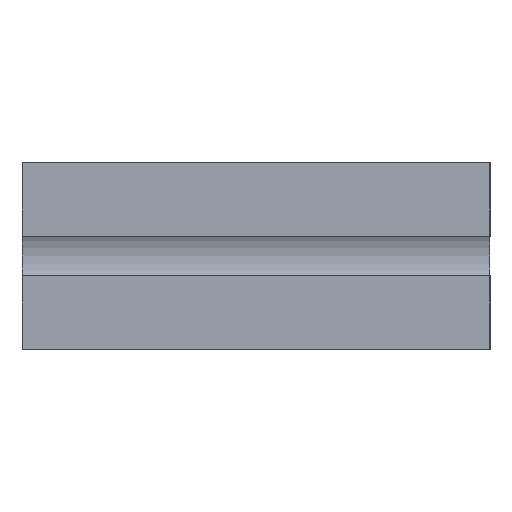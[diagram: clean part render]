
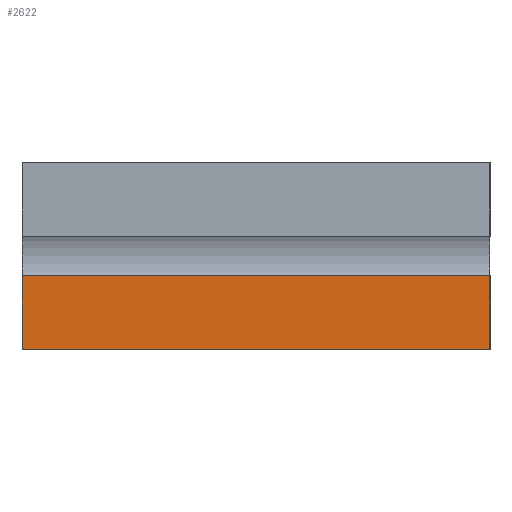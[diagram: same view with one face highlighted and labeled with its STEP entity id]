
A CAD part, left-side view. The second image highlights one B-rep face of the part: STEP entity #2622.
In plain terms, the highlighted planar face has unit normal (-1, 0, 0).
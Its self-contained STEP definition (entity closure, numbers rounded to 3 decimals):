
#530=ORIENTED_EDGE('',*,*,#1135,.F.);
#531=ORIENTED_EDGE('',*,*,#1094,.T.);
#532=ORIENTED_EDGE('',*,*,#1136,.F.);
#533=ORIENTED_EDGE('',*,*,#988,.F.);
#988=EDGE_CURVE('',#1316,#1317,#1612,.T.);
#1094=EDGE_CURVE('',#1422,#1421,#1700,.T.);
#1135=EDGE_CURVE('',#1422,#1316,#1731,.T.);
#1136=EDGE_CURVE('',#1317,#1421,#1732,.T.);
#1316=VERTEX_POINT('',#3879);
#1317=VERTEX_POINT('',#3881);
#1421=VERTEX_POINT('',#4091);
#1422=VERTEX_POINT('',#4093);
#1612=LINE('',#3880,#1952);
#1700=LINE('',#4092,#2040);
#1731=LINE('',#4172,#2071);
#1732=LINE('',#4173,#2072);
#1952=VECTOR('',#3149,1000.);
#2040=VECTOR('',#3275,1000.);
#2071=VECTOR('',#3332,1000.);
#2072=VECTOR('',#3333,1000.);
#2212=EDGE_LOOP('',(#530,#531,#532,#533));
#2372=FACE_BOUND('',#2212,.T.);
#2507=PLANE('',#2801);
#2622=ADVANCED_FACE('',(#2372),#2507,.F.);
#2801=AXIS2_PLACEMENT_3D('',#4171,#3330,#3331);
#3149=DIRECTION('',(0.,0.,-1.));
#3275=DIRECTION('',(0.,0.,-1.));
#3330=DIRECTION('',(1.,0.,0.));
#3331=DIRECTION('',(0.,0.,-1.));
#3332=DIRECTION('',(0.,-1.,0.));
#3333=DIRECTION('',(0.,1.,0.));
#3879=CARTESIAN_POINT('',(-80.,-50.,-4.2));
#3880=CARTESIAN_POINT('',(-80.,-50.,20.));
#3881=CARTESIAN_POINT('',(-80.,-50.,-20.));
#4091=CARTESIAN_POINT('',(-80.,50.,-20.));
#4092=CARTESIAN_POINT('',(-80.,50.,20.));
#4093=CARTESIAN_POINT('',(-80.,50.,-4.2));
#4171=CARTESIAN_POINT('',(-80.,-50.,20.));
#4172=CARTESIAN_POINT('',(-80.,142.873,-4.2));
#4173=CARTESIAN_POINT('',(-80.,-50.,-20.));
